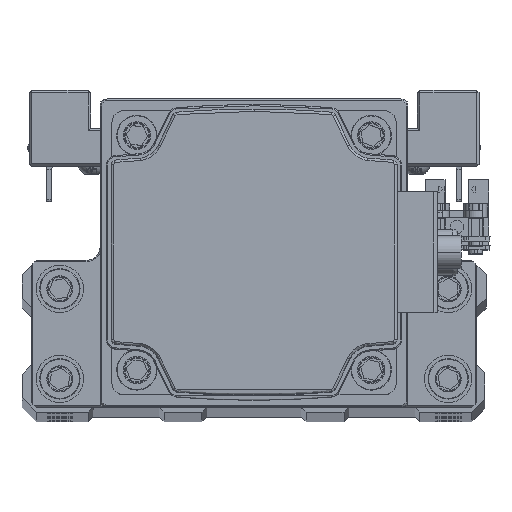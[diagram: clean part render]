
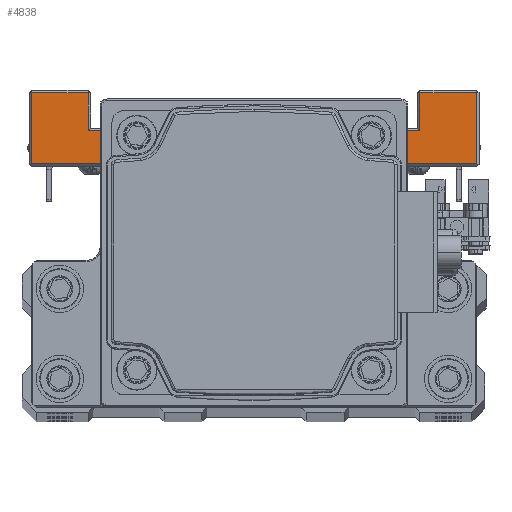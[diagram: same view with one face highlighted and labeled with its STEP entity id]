
A CAD part, top view. The second image highlights one B-rep face of the part: STEP entity #4838.
In plain terms, the highlighted planar face has unit normal (0, 0, 1) as drawn and (1, 0, 0) by its records, which use the part's own axes.
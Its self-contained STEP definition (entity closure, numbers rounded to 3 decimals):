
#411 = CARTESIAN_POINT ( 'NONE',  ( 47., 7.5, 20. ) ) ;
#1211 = VECTOR ( 'NONE', #25050, 1000. ) ;
#1606 = EDGE_CURVE ( 'NONE', #26265, #21619, #4415, .T. ) ;
#1657 = DIRECTION ( 'NONE',  ( -1., 0., 0. ) ) ;
#2041 = EDGE_CURVE ( 'NONE', #41712, #7422, #25574, .T. ) ;
#2115 = DIRECTION ( 'NONE',  ( 0., 0., 1. ) ) ;
#3523 = LINE ( 'NONE', #17212, #41759 ) ;
#4415 = LINE ( 'NONE', #18091, #43215 ) ;
#4838 = ADVANCED_FACE ( 'NONE', ( #5035 ), #18725, .F. ) ;
#5012 = CARTESIAN_POINT ( 'NONE',  ( 47., 15., 35. ) ) ;
#5035 = FACE_OUTER_BOUND ( 'NONE', #7381, .T. ) ;
#5704 = EDGE_CURVE ( 'NONE', #9905, #27581, #28050, .T. ) ;
#7330 = EDGE_CURVE ( 'NONE', #42295, #26265, #31140, .T. ) ;
#7381 = EDGE_LOOP ( 'NONE', ( #8777, #29044, #22728, #39871, #11817, #36041, #33198, #13483, #43309, #39980, #33939, #19123 ) ) ;
#7422 = VERTEX_POINT ( 'NONE', #25060 ) ;
#8542 = DIRECTION ( 'NONE',  ( 0., 1., 0. ) ) ;
#8777 = ORIENTED_EDGE ( 'NONE', *, *, #30712, .F. ) ;
#9448 = CARTESIAN_POINT ( 'NONE',  ( 47., 8., -20. ) ) ;
#9832 = CARTESIAN_POINT ( 'NONE',  ( 47., -7.5, 20. ) ) ;
#9905 = VERTEX_POINT ( 'NONE', #34927 ) ;
#9983 = VECTOR ( 'NONE', #2115, 1000. ) ;
#10446 = LINE ( 'NONE', #24124, #28771 ) ;
#10870 = VECTOR ( 'NONE', #40760, 1000. ) ;
#10987 = CARTESIAN_POINT ( 'NONE',  ( 47., 8., -47. ) ) ;
#10998 = DIRECTION ( 'NONE',  ( 0., 0., 1. ) ) ;
#11381 = CARTESIAN_POINT ( 'NONE',  ( 47., 8., -47. ) ) ;
#11758 = CARTESIAN_POINT ( 'NONE',  ( 47., 15., -20. ) ) ;
#11785 = CARTESIAN_POINT ( 'NONE',  ( 47., 7.5, -47. ) ) ;
#11817 = ORIENTED_EDGE ( 'NONE', *, *, #22131, .T. ) ;
#13232 = CARTESIAN_POINT ( 'NONE',  ( 47., 8., 20. ) ) ;
#13369 = LINE ( 'NONE', #27042, #10870 ) ;
#13468 = DIRECTION ( 'NONE',  ( 0., -1., 0. ) ) ;
#13483 = ORIENTED_EDGE ( 'NONE', *, *, #18475, .T. ) ;
#14107 = DIRECTION ( 'NONE',  ( 0., -1., 0. ) ) ;
#15346 = DIRECTION ( 'NONE',  ( 0., 0., 1. ) ) ;
#15376 = EDGE_CURVE ( 'NONE', #16157, #9905, #42542, .T. ) ;
#16006 = EDGE_CURVE ( 'NONE', #18305, #33744, #30506, .T. ) ;
#16157 = VERTEX_POINT ( 'NONE', #10987 ) ;
#16850 = VECTOR ( 'NONE', #10998, 1000. ) ;
#17212 = CARTESIAN_POINT ( 'NONE',  ( 47., 7.5, -35. ) ) ;
#17620 = CARTESIAN_POINT ( 'NONE',  ( 47., 23., 47. ) ) ;
#18091 = CARTESIAN_POINT ( 'NONE',  ( 47., -7.5, -20. ) ) ;
#18305 = VERTEX_POINT ( 'NONE', #17620 ) ;
#18475 = EDGE_CURVE ( 'NONE', #7422, #18305, #19156, .T. ) ;
#18725 = PLANE ( 'NONE',  #27623 ) ;
#19123 = ORIENTED_EDGE ( 'NONE', *, *, #1606, .T. ) ;
#19156 = LINE ( 'NONE', #32836, #9983 ) ;
#19562 = CARTESIAN_POINT ( 'NONE',  ( 47., -7.5, -20. ) ) ;
#20851 = EDGE_CURVE ( 'NONE', #33744, #42295, #10446, .T. ) ;
#21022 = EDGE_CURVE ( 'NONE', #31671, #41712, #42517, .T. ) ;
#21619 = VERTEX_POINT ( 'NONE', #19562 ) ;
#22131 = EDGE_CURVE ( 'NONE', #27581, #31671, #3523, .T. ) ;
#22728 = ORIENTED_EDGE ( 'NONE', *, *, #15376, .T. ) ;
#24124 = CARTESIAN_POINT ( 'NONE',  ( 47., 8., 20. ) ) ;
#24351 = CARTESIAN_POINT ( 'NONE',  ( 47., 15., -35. ) ) ;
#25050 = DIRECTION ( 'NONE',  ( 0., 0., -1. ) ) ;
#25060 = CARTESIAN_POINT ( 'NONE',  ( 47., 23., 35. ) ) ;
#25431 = DIRECTION ( 'NONE',  ( 0., 0., 1. ) ) ;
#25454 = DIRECTION ( 'NONE',  ( 0., 1., 0. ) ) ;
#25574 = LINE ( 'NONE', #39284, #27243 ) ;
#26265 = VERTEX_POINT ( 'NONE', #9832 ) ;
#26407 = EDGE_CURVE ( 'NONE', #28430, #16157, #42126, .T. ) ;
#26983 = VECTOR ( 'NONE', #14107, 1000. ) ;
#27042 = CARTESIAN_POINT ( 'NONE',  ( 47., 7.5, -20. ) ) ;
#27243 = VECTOR ( 'NONE', #8542, 1000. ) ;
#27581 = VERTEX_POINT ( 'NONE', #43488 ) ;
#27623 = AXIS2_PLACEMENT_3D ( 'NONE', #32394, #1657, #15346 ) ;
#28050 = LINE ( 'NONE', #41750, #16850 ) ;
#28430 = VERTEX_POINT ( 'NONE', #9448 ) ;
#28771 = VECTOR ( 'NONE', #37835, 1000. ) ;
#29044 = ORIENTED_EDGE ( 'NONE', *, *, #26407, .T. ) ;
#30506 = LINE ( 'NONE', #44203, #33553 ) ;
#30712 = EDGE_CURVE ( 'NONE', #28430, #21619, #13369, .T. ) ;
#30893 = DIRECTION ( 'NONE',  ( 0., -1., 0. ) ) ;
#31140 = LINE ( 'NONE', #411, #26983 ) ;
#31671 = VERTEX_POINT ( 'NONE', #24351 ) ;
#31771 = DIRECTION ( 'NONE',  ( 0., 0., -1. ) ) ;
#32394 = CARTESIAN_POINT ( 'NONE',  ( 47., 7.5, -20. ) ) ;
#32836 = CARTESIAN_POINT ( 'NONE',  ( 47., 23., -20. ) ) ;
#33198 = ORIENTED_EDGE ( 'NONE', *, *, #2041, .T. ) ;
#33553 = VECTOR ( 'NONE', #13468, 1000. ) ;
#33744 = VERTEX_POINT ( 'NONE', #40428 ) ;
#33939 = ORIENTED_EDGE ( 'NONE', *, *, #7330, .T. ) ;
#34234 = VECTOR ( 'NONE', #25454, 1000. ) ;
#34927 = CARTESIAN_POINT ( 'NONE',  ( 47., 23., -47. ) ) ;
#36041 = ORIENTED_EDGE ( 'NONE', *, *, #21022, .T. ) ;
#37835 = DIRECTION ( 'NONE',  ( 0., 0., -1. ) ) ;
#39284 = CARTESIAN_POINT ( 'NONE',  ( 47., 7.5, 35. ) ) ;
#39871 = ORIENTED_EDGE ( 'NONE', *, *, #5704, .T. ) ;
#39980 = ORIENTED_EDGE ( 'NONE', *, *, #20851, .T. ) ;
#40343 = VECTOR ( 'NONE', #25431, 1000. ) ;
#40428 = CARTESIAN_POINT ( 'NONE',  ( 47., 8., 47. ) ) ;
#40760 = DIRECTION ( 'NONE',  ( 0., -1., 0. ) ) ;
#41712 = VERTEX_POINT ( 'NONE', #5012 ) ;
#41750 = CARTESIAN_POINT ( 'NONE',  ( 47., 23., -20. ) ) ;
#41759 = VECTOR ( 'NONE', #30893, 1000. ) ;
#42126 = LINE ( 'NONE', #11381, #1211 ) ;
#42295 = VERTEX_POINT ( 'NONE', #13232 ) ;
#42517 = LINE ( 'NONE', #11758, #40343 ) ;
#42542 = LINE ( 'NONE', #11785, #34234 ) ;
#43215 = VECTOR ( 'NONE', #31771, 1000. ) ;
#43309 = ORIENTED_EDGE ( 'NONE', *, *, #16006, .T. ) ;
#43488 = CARTESIAN_POINT ( 'NONE',  ( 47., 23., -35. ) ) ;
#44203 = CARTESIAN_POINT ( 'NONE',  ( 47., 7.5, 47. ) ) ;
